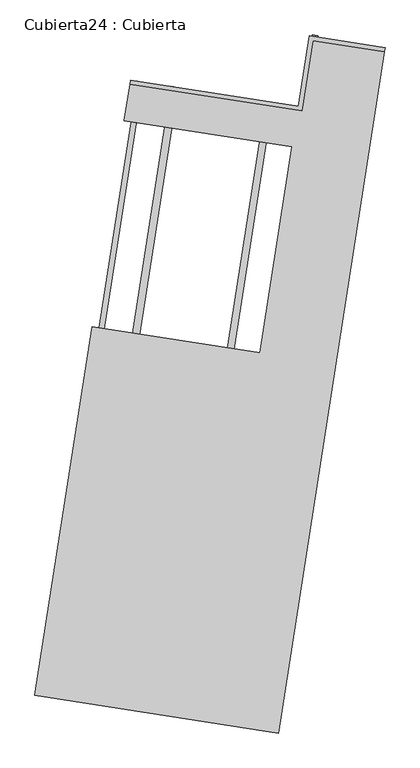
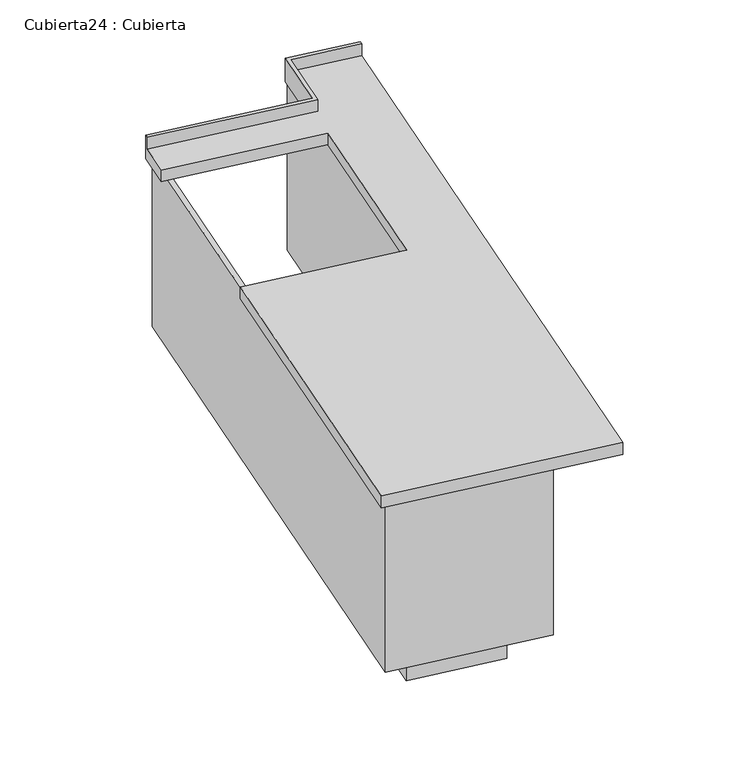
"""IFC4 building model written with IfcOpenShell, lengths in millimetres: furniture geometry, Cubierta24 : Cubierta."""

from ifc_helpers import new_model, si_unit, frame, origin, place, context, project, spatial, polyline, outline, extrude, faceted_brep, source, transform, mapped, element, save


def cubierta24_cubierta_6236393e(model_context):
    return source(origin(), model_context, "Body", "SolidModel", [
        extrude(outline(polyline([(-43936.5908069, -74222.4568055), (-44307.1167938, -74164.7031034), (-43980.6158614, -72069.9961695), (-43955.9141287, -72073.8464164), (-44278.5648142, -74143.8516176), (-43957.4422928, -74193.904826), (-43634.7916075, -72123.8996247), (-43610.0898748, -72127.7498715), (-43936.5908069, -74222.4568055)])), frame((0.0, 0.0, 9600.0), z_axis=(0.0, 0.0, 1.0), x_axis=(1.0, 0.0, 0.0)), (0.0, 0.0, 1.0), 150.0),
        extrude(outline(polyline([(-44449.8766916, -74268.9605328), (-44104.124525, -72050.7449353), (-44084.3631388, -72053.8251328), (-44427.035108, -74252.2793441), (-43849.0145663, -74342.3751197), (-43465.5299823, -71882.0825508), (-43445.7685961, -71885.1627483), (-43832.3333776, -74365.2167033), (-44449.8766916, -74268.9605328)])), frame((0.0, 0.0, 9750.0), z_axis=(0.0, 0.0, 1.0), x_axis=(1.0, 0.0, 0.0)), (0.0, 0.0, 1.0), 720.0),
        faceted_brep([(-44151.9277388, -72195.1050847, 10520.0), (-43539.3247674, -72290.5912065, 10520.0), (-43656.3722714, -73041.5238811, 10520.0), (-44268.9752429, -72946.0377594, 10520.0), (-44478.4286712, -74289.8120186, 10520.0), (-43589.1662974, -74428.4209044, 10520.0), (-43201.8314658, -71943.4265982, 10520.0), (-43463.6698401, -71902.6139795, 10520.0), (-43503.7124067, -72159.511996, 10520.0), (-44131.1364058, -72061.7157281, 10520.0), (-43589.1662974, -74428.4209044, 10470.0), (-44478.4286712, -74289.8120186, 10470.0), (-44268.9752429, -72946.0377594, 10470.0), (-43656.3722714, -73041.5238811, 10470.0), (-43539.3247674, -72290.5912065, 10470.0), (-44151.9277388, -72195.1050847, 10470.0), (-44128.8262577, -72046.8946885, 10470.0), (-43516.2232982, -72142.3808083, 10470.0), (-43476.1807316, -71885.4827917, 10470.0), (-43199.5213176, -71928.6055586, 10470.0), (-43199.5213176, -71928.6055585, 10570.0), (-43201.8314658, -71943.4265982, 10570.0), (-43476.1807316, -71885.4827917, 10570.0), (-43516.2232982, -72142.3808083, 10570.0), (-44128.8262577, -72046.8946885, 10570.0), (-44131.1364058, -72061.7157281, 10570.0), (-43503.7124067, -72159.511996, 10570.0), (-43463.6698401, -71902.6139795, 10570.0)], [[[0, 1, 2, 3, 4, 5, 6, 7, 8, 9]], [[10, 11, 12, 13, 14, 15, 16, 17, 18, 19]], [[20, 21, 6, 5, 10, 19]], [[21, 20, 22, 23, 24, 25, 26, 27]], [[6, 21, 27, 7]], [[20, 19, 18, 22]], [[25, 24, 16, 15, 0, 9]], [[4, 3, 12, 11]], [[5, 4, 11, 10]], [[1, 0, 15, 14]], [[2, 1, 14, 13]], [[3, 2, 13, 12]], [[23, 22, 18, 17]], [[27, 26, 8, 7]], [[16, 24, 23, 17]], [[26, 25, 9, 8]]]),
    ])


if __name__ == "__main__":
    model = new_model("IFC4")
    model_context = context("Model", 3, world=origin())
    ifc_project = project(units=[si_unit("LENGTHUNIT", "METRE", prefix="MILLI")], contexts=[model_context])
    site = spatial("IfcSite", under=ifc_project)
    building = spatial("IfcBuilding", under=site)
    placement = place(None, origin())
    cubierta24_cubierta_shape = cubierta24_cubierta_6236393e(model_context)
    element("IfcFurniture", 1, ObjectType="Cubierta24 : Cubierta", at=placement, inside=building, context=model_context, shape_type="MappedRepresentation", body=[
        mapped(cubierta24_cubierta_shape, transform((0.0, 0.0, 0.0), x_axis=(1.0, 0.0, 0.0), y_axis=(0.0, 1.0, 0.0), z_axis=(0.0, 0.0, 1.0))),
    ])
    save(model, "model.ifc")
